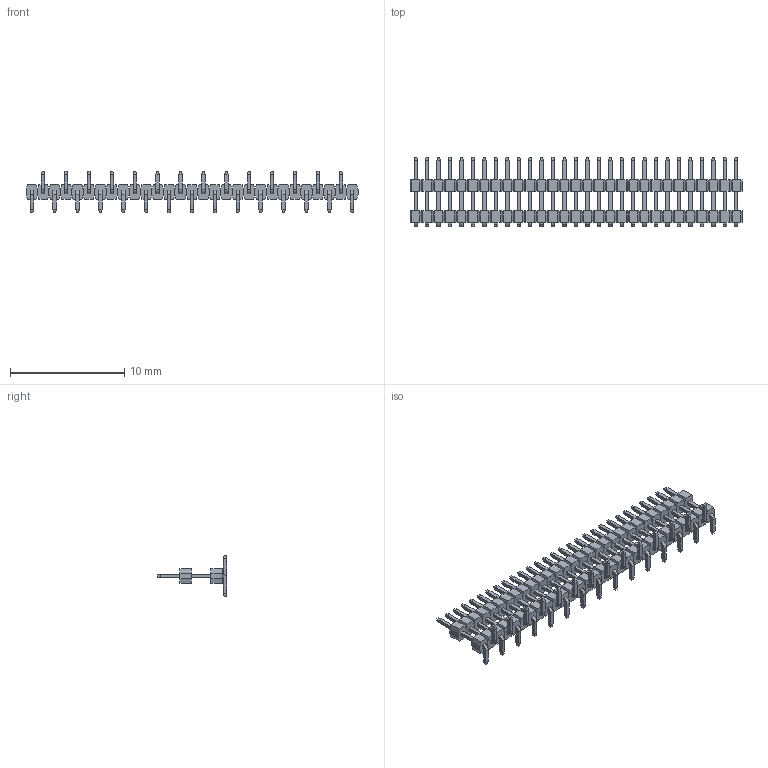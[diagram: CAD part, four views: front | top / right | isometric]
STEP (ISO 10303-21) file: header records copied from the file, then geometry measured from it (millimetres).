
FILE_DESCRIPTION (( 'STEP AP203' ), '1' );
FILE_NAME ('PZ100-1-29-S-C3.7-XX-DP-2(L6.1) (1.00 等齬 齬渀 邧呿 泂え-HCTL).STEP', '2026-03-11T06:41:37', ( '' ), ( '' ), 'SwSTEP 2.0', 'SolidWorks 2025', '' );
FILE_SCHEMA (( 'CONFIG_CONTROL_DESIGN' ));
Length unit declared in the file: millimetre
Products named in the file (1): PZ100-1-29-S-C3.7-XX-DP-2(L6.1) (1.00 单排 排针 双塑 贴片-HCTL)
Bounding box: 29 x 6.1 x 3.6 mm (x, y, z)
Volume: 83.3 mm3; surface area: 564 mm2
Topology: 29 solids, 29 shells, 1276 faces, 3074 edges, 1972 vertices
Faces by surface type: plane 1218, cylinder 58
Entity records: 36159 total; most frequent: CARTESIAN_POINT 6323, ORIENTED_EDGE 6148, DIRECTION 5744, EDGE_CURVE 3074, VECTOR 2958, LINE 2958, VERTEX_POINT 1972, AXIS2_PLACEMENT_3D 1393
